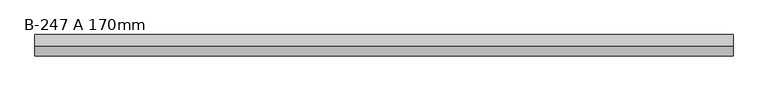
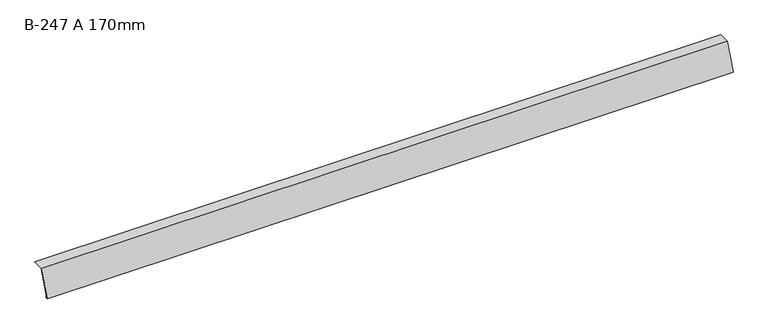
"""IFC4 building model written with IfcOpenShell, lengths in millimetres: proxy geometry, GROVIK_Flashing_Eaves : B-247 A 170mm."""

from ifc_helpers import new_model, si_unit, frame, origin, place, context, project, spatial, polyline, outline, extrude, source, transform, mapped, element, save


def b_247_a_170mm_14fe877a(model_context):
    return source(origin(), model_context, "Body", "SweptSolid", [
        extrude(outline(polyline([(-0.6918582, 0.9880759), (-61.4967036, -157.413962), (-51.7937464, -154.9947431), (-51.5518245, -155.9650388), (-63.1187025, -158.8489854), (-1.3837164, 1.9761518), (65.9550431, 3.1515542), (65.9724955, 2.1517065), (-0.6918582, 0.9880759)])), frame((0.0, 0.0, 0.0), z_axis=(1.0, 0.0, 0.0), x_axis=(0.0, 1.0, 0.0)), (0.0, 0.0, 1.0), 4200.0),
    ])


if __name__ == "__main__":
    model = new_model("IFC4")
    model_context = context("Model", 3, world=origin())
    ifc_project = project(units=[si_unit("LENGTHUNIT", "METRE", prefix="MILLI")], contexts=[model_context])
    site = spatial("IfcSite", under=ifc_project)
    building = spatial("IfcBuilding", under=site)
    placement = place(None, origin())
    b_247_a_170mm_shape = b_247_a_170mm_14fe877a(model_context)
    element("IfcBuildingElementProxy", 1, Name="GROVIK_Flashing_Eaves : B-247 A 170mm", ObjectType="GROVIK_Flashing_Eaves : B-247 A 170mm", at=placement, inside=building, context=model_context, shape_type="MappedRepresentation", body=[
        mapped(b_247_a_170mm_shape, transform((0.0, 0.0, 0.0), x_axis=(1.0, 0.0, 0.0), y_axis=(0.0, 1.0, 0.0), z_axis=(0.0, 0.0, 1.0))),
    ])
    save(model, "model.ifc")
